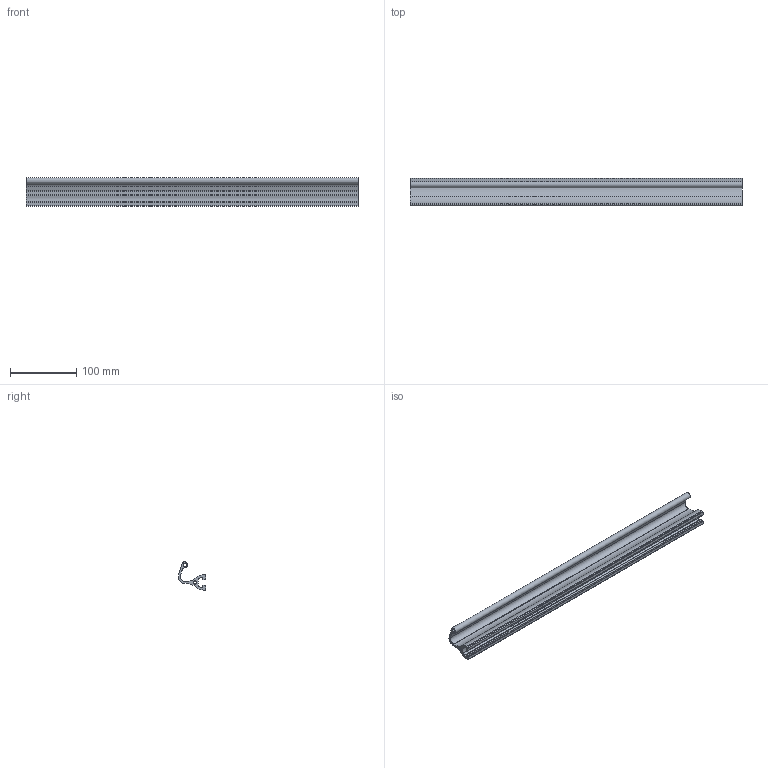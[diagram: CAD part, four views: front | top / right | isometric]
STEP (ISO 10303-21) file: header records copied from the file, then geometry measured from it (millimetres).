
FILE_DESCRIPTION (( 'STEP AP214' ), '1' );
FILE_NAME ('A40778.step', '2024-12-03T16:13:02', ( '' ), ( '' ), 'SwSTEP 2.0', 'SolidWorks 2023', '' );
FILE_SCHEMA (( 'AUTOMOTIVE_DESIGN' ));
Length unit declared in the file: millimetre
Products named in the file (1): A40778
Bounding box: 500 x 40.99 x 42.49 mm (x, y, z)
Volume: 195233.9 mm3; surface area: 117273.6 mm2
Topology: 1 solids, 1 shells, 67 faces, 195 edges, 130 vertices
Faces by surface type: plane 36, cylinder 31
Entity records: 2262 total; most frequent: CARTESIAN_POINT 393, DIRECTION 393, ORIENTED_EDGE 390, EDGE_CURVE 195, LINE 133, VECTOR 133, AXIS2_PLACEMENT_3D 130, VERTEX_POINT 130
